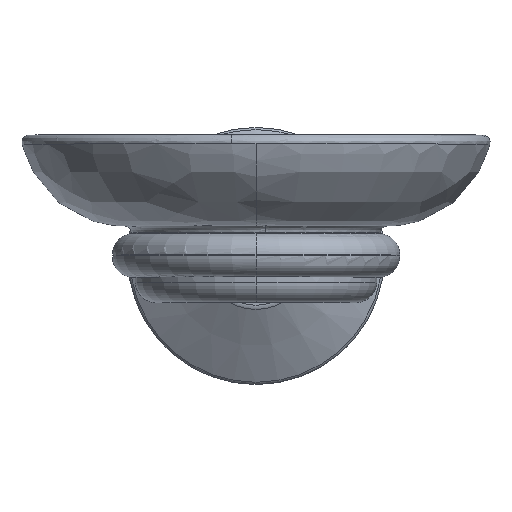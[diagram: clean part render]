
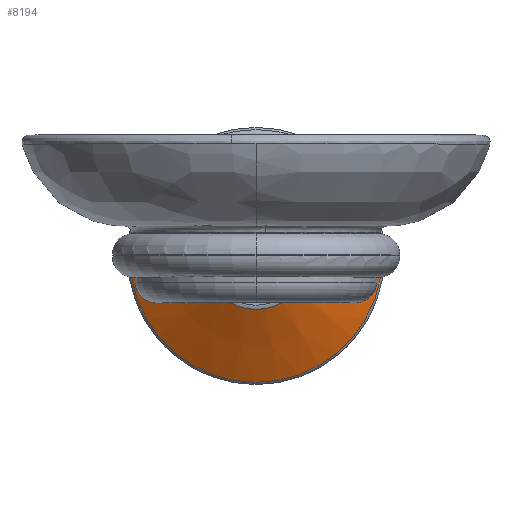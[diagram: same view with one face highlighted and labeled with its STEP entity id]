
A CAD part, top view. The second image highlights one B-rep face of the part: STEP entity #8194.
In plain terms, the highlighted conical face has half-angle 60.945 degrees and reference radius 30.05 mm.
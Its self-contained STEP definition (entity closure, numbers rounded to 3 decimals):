
#154 = CARTESIAN_POINT ( 'NONE',  ( 0., 5.062, -67.28 ) ) ;
#223 = LINE ( 'NONE', #1536, #1784 ) ;
#484 = EDGE_CURVE ( 'NONE', #948, #1105, #9852, .T. ) ;
#948 = VERTEX_POINT ( 'NONE', #2453 ) ;
#1105 = VERTEX_POINT ( 'NONE', #7768 ) ;
#1115 = VERTEX_POINT ( 'NONE', #7984 ) ;
#1414 = CARTESIAN_POINT ( 'NONE',  ( 0., 5.062, -57.532 ) ) ;
#1536 = CARTESIAN_POINT ( 'NONE',  ( -30.05, 5.062, -67.28 ) ) ;
#1784 = VECTOR ( 'NONE', #9981, 1000. ) ;
#2025 = EDGE_CURVE ( 'NONE', #1115, #4608, #223, .T. ) ;
#2453 = CARTESIAN_POINT ( 'NONE',  ( 12.503, 5.062, -57.532 ) ) ;
#2468 = CONICAL_SURFACE ( 'NONE', #9087, 30.05, 1.064 ) ;
#2495 = DIRECTION ( 'NONE',  ( -1., 0., 0. ) ) ;
#2667 = ORIENTED_EDGE ( 'NONE', *, *, #6032, .T. ) ;
#2719 = FACE_OUTER_BOUND ( 'NONE', #8049, .T. ) ;
#2965 = DIRECTION ( 'NONE',  ( 0., 0., -1. ) ) ;
#3216 = AXIS2_PLACEMENT_3D ( 'NONE', #1414, #2965, #8357 ) ;
#3357 = ORIENTED_EDGE ( 'NONE', *, *, #2025, .T. ) ;
#4191 = CARTESIAN_POINT ( 'NONE',  ( 30.05, 5.062, -67.28 ) ) ;
#4608 = VERTEX_POINT ( 'NONE', #9104 ) ;
#4902 = CARTESIAN_POINT ( 'NONE',  ( 0., 5.062, -66.994 ) ) ;
#4971 = AXIS2_PLACEMENT_3D ( 'NONE', #4902, #5740, #8672 ) ;
#5740 = DIRECTION ( 'NONE',  ( 0., 0., 1. ) ) ;
#6015 = ORIENTED_EDGE ( 'NONE', *, *, #7505, .T. ) ;
#6032 = EDGE_CURVE ( 'NONE', #4608, #1105, #8625, .T. ) ;
#7446 = ORIENTED_EDGE ( 'NONE', *, *, #484, .F. ) ;
#7505 = EDGE_CURVE ( 'NONE', #948, #1115, #9933, .T. ) ;
#7768 = CARTESIAN_POINT ( 'NONE',  ( 29.536, 5.062, -66.994 ) ) ;
#7984 = CARTESIAN_POINT ( 'NONE',  ( -12.503, 5.062, -57.532 ) ) ;
#8049 = EDGE_LOOP ( 'NONE', ( #7446, #6015, #3357, #2667 ) ) ;
#8194 = ADVANCED_FACE ( 'NONE', ( #2719 ), #2468, .T. ) ;
#8357 = DIRECTION ( 'NONE',  ( -1., 0., 0. ) ) ;
#8625 = CIRCLE ( 'NONE', #4971, 29.536 ) ;
#8626 = DIRECTION ( 'NONE',  ( 0., 0., -1. ) ) ;
#8672 = DIRECTION ( 'NONE',  ( -1., 0., 0. ) ) ;
#9087 = AXIS2_PLACEMENT_3D ( 'NONE', #154, #8626, #2495 ) ;
#9104 = CARTESIAN_POINT ( 'NONE',  ( -29.536, 5.062, -66.994 ) ) ;
#9565 = DIRECTION ( 'NONE',  ( 0.874, 0., -0.486 ) ) ;
#9852 = LINE ( 'NONE', #4191, #9970 ) ;
#9933 = CIRCLE ( 'NONE', #3216, 12.503 ) ;
#9970 = VECTOR ( 'NONE', #9565, 1000. ) ;
#9981 = DIRECTION ( 'NONE',  ( -0.874, 0., -0.486 ) ) ;
